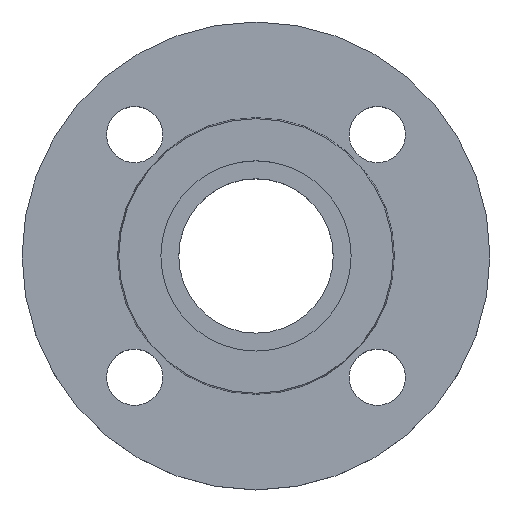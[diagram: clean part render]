
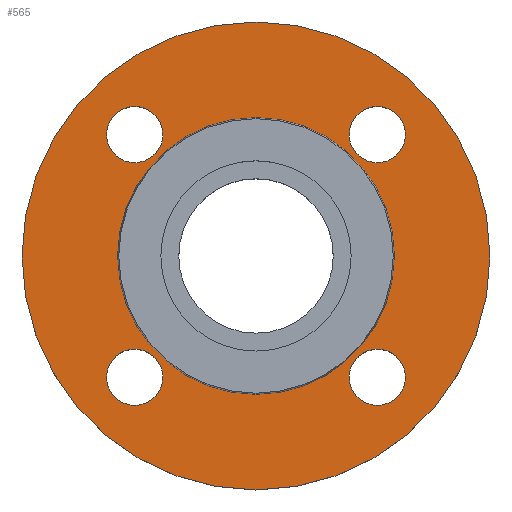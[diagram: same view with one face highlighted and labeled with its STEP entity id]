
A CAD part, top view. The second image highlights one B-rep face of the part: STEP entity #565.
In plain terms, the highlighted planar face has unit normal (0, 0, 1).
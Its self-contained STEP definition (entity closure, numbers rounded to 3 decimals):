
#9 = CIRCLE ( 'NONE', #542, 44.353 ) ;
#22 = CIRCLE ( 'NONE', #256, 44.353 ) ;
#45 = DIRECTION ( 'NONE',  ( -1., 0., 0. ) ) ;
#46 = DIRECTION ( 'NONE',  ( 0., 0., -1. ) ) ;
#50 = CARTESIAN_POINT ( 'NONE',  ( 0., 0., -2. ) ) ;
#64 = CARTESIAN_POINT ( 'NONE',  ( 47.891, -38.891, -2. ) ) ;
#68 = CARTESIAN_POINT ( 'NONE',  ( -47.891, 38.891, -2. ) ) ;
#69 = CARTESIAN_POINT ( 'NONE',  ( 29.891, -38.891, -2. ) ) ;
#73 = CARTESIAN_POINT ( 'NONE',  ( -47.891, -38.891, -2. ) ) ;
#75 = CARTESIAN_POINT ( 'NONE',  ( 44.353, 0., -2. ) ) ;
#88 = EDGE_CURVE ( 'NONE', #563, #684, #101, .T. ) ;
#89 = CARTESIAN_POINT ( 'NONE',  ( 29.891, 38.891, -2. ) ) ;
#101 = CIRCLE ( 'NONE', #102, 9. ) ;
#102 = AXIS2_PLACEMENT_3D ( 'NONE', #741, #742, #743 ) ;
#109 = CIRCLE ( 'NONE', #429, 9. ) ;
#110 = CARTESIAN_POINT ( 'NONE',  ( 75., 0., -2. ) ) ;
#121 = DIRECTION ( 'NONE',  ( 1., 0., 0. ) ) ;
#122 = DIRECTION ( 'NONE',  ( 0., 0., 1. ) ) ;
#123 = CARTESIAN_POINT ( 'NONE',  ( 44.353, 0., -2. ) ) ;
#126 = PLANE ( 'NONE',  #436 ) ;
#127 = FACE_OUTER_BOUND ( 'NONE', #527, .T. ) ;
#128 = FACE_BOUND ( 'NONE', #531, .T. ) ;
#129 = FACE_BOUND ( 'NONE', #532, .T. ) ;
#130 = FACE_BOUND ( 'NONE', #676, .T. ) ;
#132 = FACE_BOUND ( 'NONE', #691, .T. ) ;
#135 = FACE_BOUND ( 'NONE', #533, .T. ) ;
#136 = CARTESIAN_POINT ( 'NONE',  ( -29.891, -38.891, -2. ) ) ;
#154 = AXIS2_PLACEMENT_3D ( 'NONE', #762, #763, #765 ) ;
#155 = CIRCLE ( 'NONE', #154, 9. ) ;
#160 = EDGE_CURVE ( 'NONE', #516, #672, #155, .T. ) ;
#173 = CARTESIAN_POINT ( 'NONE',  ( 0., 0., -2. ) ) ;
#175 = DIRECTION ( 'NONE',  ( 0., 0., -1. ) ) ;
#176 = DIRECTION ( 'NONE',  ( -1., 0., 0. ) ) ;
#178 = DIRECTION ( 'NONE',  ( 0., 0., -1. ) ) ;
#197 = CARTESIAN_POINT ( 'NONE',  ( -29.891, 38.891, -2. ) ) ;
#199 = DIRECTION ( 'NONE',  ( -1., 0., 0. ) ) ;
#221 = EDGE_CURVE ( 'NONE', #699, #690, #581, .T. ) ;
#226 = EDGE_CURVE ( 'NONE', #499, #694, #109, .T. ) ;
#229 = EDGE_CURVE ( 'NONE', #690, #699, #415, .T. ) ;
#232 = EDGE_CURVE ( 'NONE', #694, #499, #409, .T. ) ;
#248 = CIRCLE ( 'NONE', #739, 9. ) ;
#252 = EDGE_CURVE ( 'NONE', #672, #516, #408, .T. ) ;
#256 = AXIS2_PLACEMENT_3D ( 'NONE', #425, #175, #176 ) ;
#259 = AXIS2_PLACEMENT_3D ( 'NONE', #50, #46, #45 ) ;
#262 = CARTESIAN_POINT ( 'NONE',  ( 38.891, -38.891, -2. ) ) ;
#264 = DIRECTION ( 'NONE',  ( 0., 0., -1. ) ) ;
#266 = DIRECTION ( 'NONE',  ( 1., 0., 0. ) ) ;
#275 = CARTESIAN_POINT ( 'NONE',  ( -38.891, 38.891, -2. ) ) ;
#276 = DIRECTION ( 'NONE',  ( 0., 0., -1. ) ) ;
#277 = DIRECTION ( 'NONE',  ( 1., 0., 0. ) ) ;
#279 = CARTESIAN_POINT ( 'NONE',  ( 38.891, -38.891, -2. ) ) ;
#280 = DIRECTION ( 'NONE',  ( 0., 0., -1. ) ) ;
#281 = DIRECTION ( 'NONE',  ( 1., 0., 0. ) ) ;
#282 = CARTESIAN_POINT ( 'NONE',  ( -38.891, 38.891, -2. ) ) ;
#283 = DIRECTION ( 'NONE',  ( 0., 0., -1. ) ) ;
#284 = DIRECTION ( 'NONE',  ( 1., 0., 0. ) ) ;
#299 = CARTESIAN_POINT ( 'NONE',  ( 38.891, 38.891, -2. ) ) ;
#300 = DIRECTION ( 'NONE',  ( 0., 0., -1. ) ) ;
#301 = DIRECTION ( 'NONE',  ( 1., 0., 0. ) ) ;
#347 = CARTESIAN_POINT ( 'NONE',  ( 47.891, 38.891, -2. ) ) ;
#363 = EDGE_CURVE ( 'NONE', #504, #605, #448, .T. ) ;
#374 = CARTESIAN_POINT ( 'NONE',  ( 0., 0., -2. ) ) ;
#375 = DIRECTION ( 'NONE',  ( 0., 0., -1. ) ) ;
#376 = DIRECTION ( 'NONE',  ( -1., 0., 0. ) ) ;
#399 = CARTESIAN_POINT ( 'NONE',  ( -75., 0., -2. ) ) ;
#402 = AXIS2_PLACEMENT_3D ( 'NONE', #299, #300, #301 ) ;
#404 = CARTESIAN_POINT ( 'NONE',  ( -38.891, -38.891, -2. ) ) ;
#405 = EDGE_CURVE ( 'NONE', #684, #563, #248, .T. ) ;
#407 = DIRECTION ( 'NONE',  ( 0., 0., -1. ) ) ;
#408 = CIRCLE ( 'NONE', #402, 9. ) ;
#409 = CIRCLE ( 'NONE', #463, 9. ) ;
#410 = DIRECTION ( 'NONE',  ( 1., 0., 0. ) ) ;
#411 = AXIS2_PLACEMENT_3D ( 'NONE', #279, #280, #281 ) ;
#415 = CIRCLE ( 'NONE', #411, 9. ) ;
#422 = EDGE_CURVE ( 'NONE', #495, #682, #22, .T. ) ;
#423 = EDGE_CURVE ( 'NONE', #682, #495, #9, .T. ) ;
#425 = CARTESIAN_POINT ( 'NONE',  ( 0., 0., -2. ) ) ;
#429 = AXIS2_PLACEMENT_3D ( 'NONE', #275, #276, #277 ) ;
#436 = AXIS2_PLACEMENT_3D ( 'NONE', #123, #122, #121 ) ;
#444 = CIRCLE ( 'NONE', #259, 75. ) ;
#448 = CIRCLE ( 'NONE', #452, 75. ) ;
#452 = AXIS2_PLACEMENT_3D ( 'NONE', #374, #375, #376 ) ;
#457 = CARTESIAN_POINT ( 'NONE',  ( -44.353, 0., -2. ) ) ;
#463 = AXIS2_PLACEMENT_3D ( 'NONE', #282, #283, #284 ) ;
#495 = VERTEX_POINT ( 'NONE', #457 ) ;
#499 = VERTEX_POINT ( 'NONE', #197 ) ;
#504 = VERTEX_POINT ( 'NONE', #399 ) ;
#516 = VERTEX_POINT ( 'NONE', #347 ) ;
#527 = EDGE_LOOP ( 'NONE', ( #602, #603 ) ) ;
#531 = EDGE_LOOP ( 'NONE', ( #600, #601 ) ) ;
#532 = EDGE_LOOP ( 'NONE', ( #597, #598 ) ) ;
#533 = EDGE_LOOP ( 'NONE', ( #591, #592 ) ) ;
#542 = AXIS2_PLACEMENT_3D ( 'NONE', #173, #178, #199 ) ;
#563 = VERTEX_POINT ( 'NONE', #136 ) ;
#565 = ADVANCED_FACE ( 'NONE', ( #135, #132, #130, #129, #128, #127 ), #126, .T. ) ;
#581 = CIRCLE ( 'NONE', #667, 9. ) ;
#591 = ORIENTED_EDGE ( 'NONE', *, *, #221, .T. ) ;
#592 = ORIENTED_EDGE ( 'NONE', *, *, #229, .T. ) ;
#593 = ORIENTED_EDGE ( 'NONE', *, *, #88, .T. ) ;
#594 = ORIENTED_EDGE ( 'NONE', *, *, #405, .T. ) ;
#595 = ORIENTED_EDGE ( 'NONE', *, *, #226, .T. ) ;
#596 = ORIENTED_EDGE ( 'NONE', *, *, #232, .T. ) ;
#597 = ORIENTED_EDGE ( 'NONE', *, *, #160, .T. ) ;
#598 = ORIENTED_EDGE ( 'NONE', *, *, #252, .T. ) ;
#600 = ORIENTED_EDGE ( 'NONE', *, *, #422, .T. ) ;
#601 = ORIENTED_EDGE ( 'NONE', *, *, #423, .T. ) ;
#602 = ORIENTED_EDGE ( 'NONE', *, *, #794, .F. ) ;
#603 = ORIENTED_EDGE ( 'NONE', *, *, #363, .F. ) ;
#605 = VERTEX_POINT ( 'NONE', #110 ) ;
#667 = AXIS2_PLACEMENT_3D ( 'NONE', #262, #264, #266 ) ;
#672 = VERTEX_POINT ( 'NONE', #89 ) ;
#676 = EDGE_LOOP ( 'NONE', ( #595, #596 ) ) ;
#682 = VERTEX_POINT ( 'NONE', #75 ) ;
#684 = VERTEX_POINT ( 'NONE', #73 ) ;
#690 = VERTEX_POINT ( 'NONE', #69 ) ;
#691 = EDGE_LOOP ( 'NONE', ( #593, #594 ) ) ;
#694 = VERTEX_POINT ( 'NONE', #68 ) ;
#699 = VERTEX_POINT ( 'NONE', #64 ) ;
#739 = AXIS2_PLACEMENT_3D ( 'NONE', #404, #407, #410 ) ;
#741 = CARTESIAN_POINT ( 'NONE',  ( -38.891, -38.891, -2. ) ) ;
#742 = DIRECTION ( 'NONE',  ( 0., 0., -1. ) ) ;
#743 = DIRECTION ( 'NONE',  ( 1., 0., 0. ) ) ;
#762 = CARTESIAN_POINT ( 'NONE',  ( 38.891, 38.891, -2. ) ) ;
#763 = DIRECTION ( 'NONE',  ( 0., 0., -1. ) ) ;
#765 = DIRECTION ( 'NONE',  ( 1., 0., 0. ) ) ;
#794 = EDGE_CURVE ( 'NONE', #605, #504, #444, .T. ) ;
